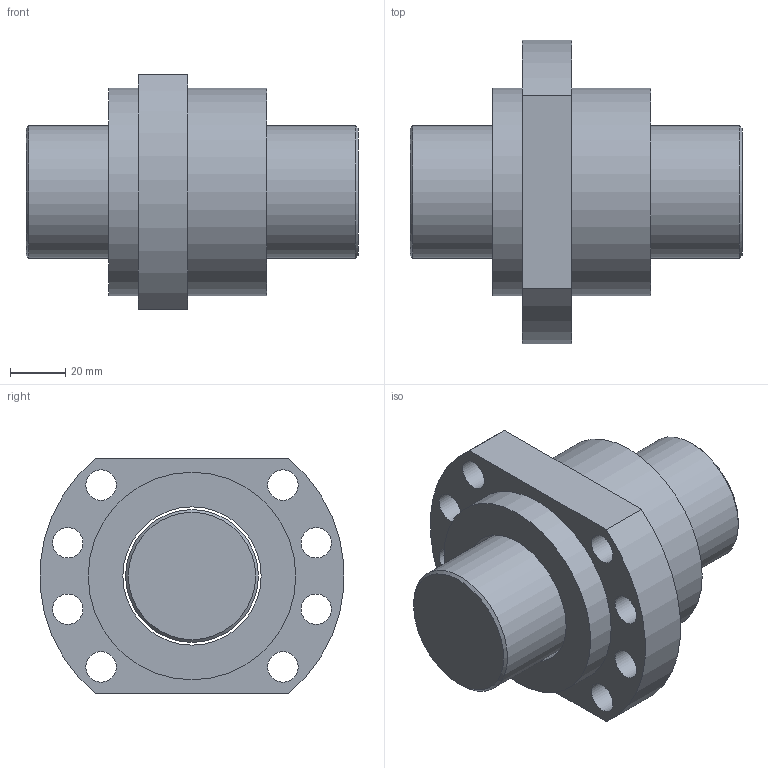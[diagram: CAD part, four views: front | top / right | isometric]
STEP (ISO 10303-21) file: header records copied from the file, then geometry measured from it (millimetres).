
FILE_DESCRIPTION(/* description */ (''),/* implementation_level */ '2;1');
FILE_NAME(/* name */ 'SFA5010-3.8.stp',/* time_stamp */ '2019-04-02T13:29:13+08:00',/* author */ (''),/* organization */ (''),/* preprocessor_version */ 'ST-DEVELOPER v14',/* originating_system */ 'SIEMENS PLM Software NX 8.0',/* authorisation */ '');
FILE_SCHEMA (('AP203_CONFIGURATION_CONTROLLED_3D_DESIGN_OF_MECHANICAL_PARTS_AND_ASSEMBLIES_MIM_LF { 1 0 10303 403 2 1 2}'));
Length unit declared in the file: millimetre
Products named in the file (1): 00251B18CDB0b5lh
Bounding box: 120 x 109.65 x 85 mm (x, y, z)
Volume: 413276.6 mm3; surface area: 61838.3 mm2
Topology: 2 solids, 2 shells, 24 faces, 55 edges, 37 vertices
Faces by surface type: cylinder 14, plane 8, cone 2
Full cylindrical faces by diameter (mm): 11 x8, 48 x1, 50 x1, 75 x2
Entity records: 726 total; most frequent: DIRECTION 118, CARTESIAN_POINT 97, ORIENTED_EDGE 76, EDGE_LOOP 58, AXIS2_PLACEMENT_3D 55, FACE_BOUND 52, EDGE_CURVE 38, VERTEX_POINT 34
